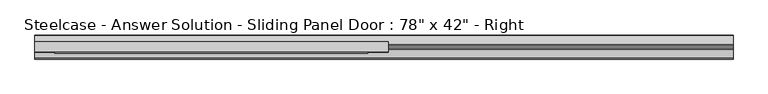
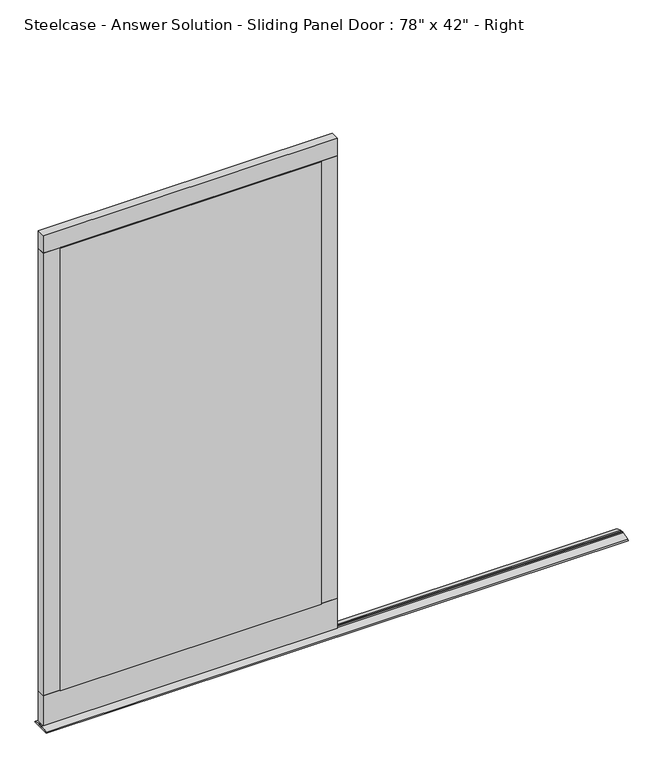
"""IFC4 building model written with IfcOpenShell, lengths in millimetres: furniture geometry."""

from ifc_helpers import new_model, si_unit, frame, origin, place, context, project, spatial, polyline, outline, extrude, source, transform, mapped, element, save


def furniture_fb25de19(model_context):
    return source(origin(), model_context, "Body", "SweptSolid", [
        extrude(outline(polyline([(-1041.4, -53.9597878), (-2159.0, -53.9597878), (-2159.0, -22.2097635), (-1041.4, -22.2097635), (-1041.4, -53.9597878)])), frame((0.0, 0.0, 1915.1589729), z_axis=(0.0, 0.0, 1.0), x_axis=(1.0, 0.0, 0.0)), (0.0, 0.0, 1.0), 69.8499516),
        extrude(outline(polyline([(-2095.5000969, -53.9597878), (-2159.0, -53.9597878), (-2159.0, -22.2097635), (-2095.5000969, -22.2097635), (-2095.5000969, -53.9597878)])), frame((0.0, 0.0, 137.1589275), z_axis=(0.0, 0.0, 1.0), x_axis=(1.0, 0.0, 0.0)), (0.0, 0.0, 1.0), 1778.0000454),
        extrude(outline(polyline([(-1041.4, -53.9597878), (-1104.8999031, -53.9597878), (-1104.8999031, -22.2097635), (-1041.4, -22.2097635), (-1041.4, -53.9597878)])), frame((0.0, 0.0, 137.1589275), z_axis=(0.0, 0.0, 1.0), x_axis=(1.0, 0.0, 0.0)), (0.0, 0.0, 1.0), 1778.0000454),
        extrude(outline(polyline([(-1041.4, -53.9597878), (-2159.0, -53.9597878), (-2159.0, -22.2097635), (-1041.4, -22.2097635), (-1041.4, -53.9597878)])), frame((0.0, 0.0, 16.5089245), z_axis=(0.0, 0.0, 1.0), x_axis=(1.0, 0.0, 0.0)), (0.0, 0.0, 1.0), 120.650003),
        extrude(outline(polyline([(-1104.8999031, -53.9597878), (-1104.8999031, -57.7514894), (-2095.5000969, -57.7514894), (-2095.5000969, -53.9597878), (-1104.8999031, -53.9597878)])), frame((0.0, 0.0, 137.1589275), z_axis=(0.0, 0.0, 1.0), x_axis=(1.0, 0.0, 0.0)), (0.0, 0.0, 1.0), 1778.0000454),
        extrude(outline(polyline([(-29.8388763, 12.2491055), (-1.9333122, 3.0138476), (0.0, 0.0), (-76.1694786, 0.0), (-74.2361664, 3.0138476), (-46.3306023, 12.2491055), (-46.3306023, 6.2879429), (-39.9806265, 6.2879429), (-39.9806265, 12.6379637), (-36.1889248, 12.6379637), (-36.1889248, 6.2879429), (-29.8388763, 6.2879429), (-29.8388763, 12.2491055)])), frame((-2159.0, 0.0, 0.0), z_axis=(1.0, 0.0, 0.0), x_axis=(0.0, 1.0, 0.0)), (0.0, 0.0, 1.0), 2209.8),
    ])


if __name__ == "__main__":
    model = new_model("IFC4")
    model_context = context("Model", 3, world=origin())
    ifc_project = project(units=[si_unit("LENGTHUNIT", "METRE", prefix="MILLI")], contexts=[model_context])
    site = spatial("IfcSite", under=ifc_project)
    building = spatial("IfcBuilding", under=site)
    placement = place(None, origin())
    furniture_shape = furniture_fb25de19(model_context)
    element("IfcFurniture", 1, ObjectType="Steelcase - Answer Solution - Sliding Panel Door : 78\" x 42\" - Right", at=placement, inside=building, context=model_context, shape_type="MappedRepresentation", body=[
        mapped(furniture_shape, transform((0.0, 0.0, 0.0), x_axis=(1.0, 0.0, 0.0), y_axis=(0.0, 1.0, 0.0), z_axis=(0.0, 0.0, 1.0))),
    ])
    save(model, "model.ifc")
